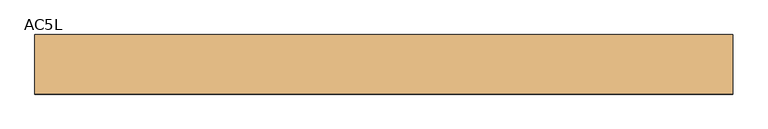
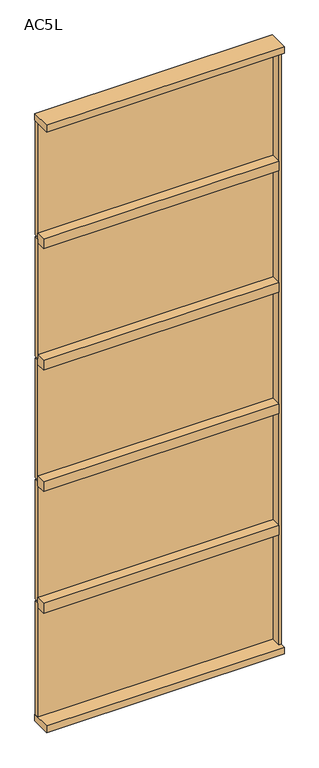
"""IFC4 building model written with IfcOpenShell, lengths in millimetres: door geometry, Mobiliário_Mobiliário de Escritório_Painel Lambri - AC5L (Complementar)_Marelli : AC5L."""

from ifc_helpers import new_model, si_unit, frame, origin, origin_with_axes, place, context, project, spatial, polyline, outline, extrude, source, transform, mapped, element, save


def ac5l_c1f94602(model_context):
    return source(origin(), model_context, "Body", "SweptSolid", [
        extrude(outline(polyline([(500.0, 42.5), (500.0, -42.5), (-500.0, -42.5), (-500.0, 42.5), (500.0, 42.5)])), origin_with_axes(), (0.0, 0.0, 1.0), 30.0),
        extrude(outline(polyline([(490.0, 39.5), (490.0, 21.5), (-500.0, 21.5), (-500.0, 39.5), (490.0, 39.5)])), frame((0.0, 0.0, 30.0), z_axis=(0.0, 0.0, 1.0), x_axis=(1.0, 0.0, 0.0)), (0.0, 0.0, 1.0), 505.0),
        extrude(outline(polyline([(490.0, 21.5), (490.0, -21.5), (-500.0, -21.5), (-500.0, 21.5), (490.0, 21.5)])), frame((0.0, 0.0, 518.5), z_axis=(0.0, 0.0, 1.0), x_axis=(1.0, 0.0, 0.0)), (0.0, 0.0, 1.0), 43.0),
        extrude(outline(polyline([(490.0, 21.5), (490.0, -21.5), (-500.0, -21.5), (-500.0, 21.5), (490.0, 21.5)])), frame((0.0, 0.0, 1058.5), z_axis=(0.0, 0.0, 1.0), x_axis=(1.0, 0.0, 0.0)), (0.0, 0.0, 1.0), 43.0),
        extrude(outline(polyline([(490.0, 39.5), (490.0, 21.5), (-500.0, 21.5), (-500.0, 39.5), (490.0, 39.5)])), frame((0.0, 0.0, 545.0), z_axis=(0.0, 0.0, 1.0), x_axis=(1.0, 0.0, 0.0)), (0.0, 0.0, 1.0), 530.0),
        extrude(outline(polyline([(500.0, 42.5), (500.0, -42.5), (-500.0, -42.5), (-500.0, 42.5), (500.0, 42.5)])), frame((0.0, 0.0, 2670.0), z_axis=(0.0, 0.0, 1.0), x_axis=(1.0, 0.0, 0.0)), (0.0, 0.0, 1.0), 30.0),
        extrude(outline(polyline([(490.0, 39.5), (490.0, 21.5), (-500.0, 21.5), (-500.0, 39.5), (490.0, 39.5)])), frame((0.0, 0.0, 1625.0), z_axis=(0.0, 0.0, 1.0), x_axis=(1.0, 0.0, 0.0)), (0.0, 0.0, 1.0), 530.0),
        extrude(outline(polyline([(490.0, 21.5), (490.0, -21.5), (-500.0, -21.5), (-500.0, 21.5), (490.0, 21.5)])), frame((0.0, 0.0, 2138.5), z_axis=(0.0, 0.0, 1.0), x_axis=(1.0, 0.0, 0.0)), (0.0, 0.0, 1.0), 43.0),
        extrude(outline(polyline([(490.0, 21.5), (490.0, -21.5), (-500.0, -21.5), (-500.0, 21.5), (490.0, 21.5)])), frame((0.0, 0.0, 1598.5), z_axis=(0.0, 0.0, 1.0), x_axis=(1.0, 0.0, 0.0)), (0.0, 0.0, 1.0), 43.0),
        extrude(outline(polyline([(500.0, -21.5), (490.0, -21.5), (490.0, 21.5), (500.0, 21.5), (500.0, -21.5)])), frame((0.0, 0.0, 30.0), z_axis=(0.0, 0.0, 1.0), x_axis=(1.0, 0.0, 0.0)), (0.0, 0.0, 1.0), 2640.0),
        extrude(outline(polyline([(490.0, 39.5), (490.0, 21.5), (-500.0, 21.5), (-500.0, 39.5), (490.0, 39.5)])), frame((0.0, 0.0, 2165.0), z_axis=(0.0, 0.0, 1.0), x_axis=(1.0, 0.0, 0.0)), (0.0, 0.0, 1.0), 505.0),
        extrude(outline(polyline([(490.0, 39.5), (490.0, 21.5), (-500.0, 21.5), (-500.0, 39.5), (490.0, 39.5)])), frame((0.0, 0.0, 1085.0), z_axis=(0.0, 0.0, 1.0), x_axis=(1.0, 0.0, 0.0)), (0.0, 0.0, 1.0), 530.0),
    ])


if __name__ == "__main__":
    model = new_model("IFC4")
    model_context = context("Model", 3, world=origin())
    ifc_project = project(units=[si_unit("LENGTHUNIT", "METRE", prefix="MILLI")], contexts=[model_context])
    site = spatial("IfcSite", under=ifc_project)
    building = spatial("IfcBuilding", under=site)
    placement = place(None, origin())
    ac5l_shape = ac5l_c1f94602(model_context)
    element("IfcDoor", 1, ObjectType="Mobiliário_Mobiliário de Escritório_Painel Lambri - AC5L (Complementar)_Marelli : AC5L", at=placement, inside=building, context=model_context, shape_type="MappedRepresentation", body=[
        mapped(ac5l_shape, transform((0.0, 0.0, 0.0), x_axis=(1.0, 0.0, 0.0), y_axis=(0.0, 1.0, 0.0), z_axis=(0.0, 0.0, 1.0))),
    ])
    save(model, "model.ifc")
